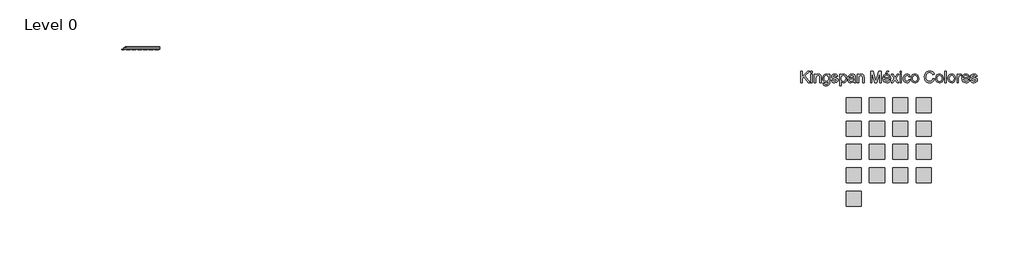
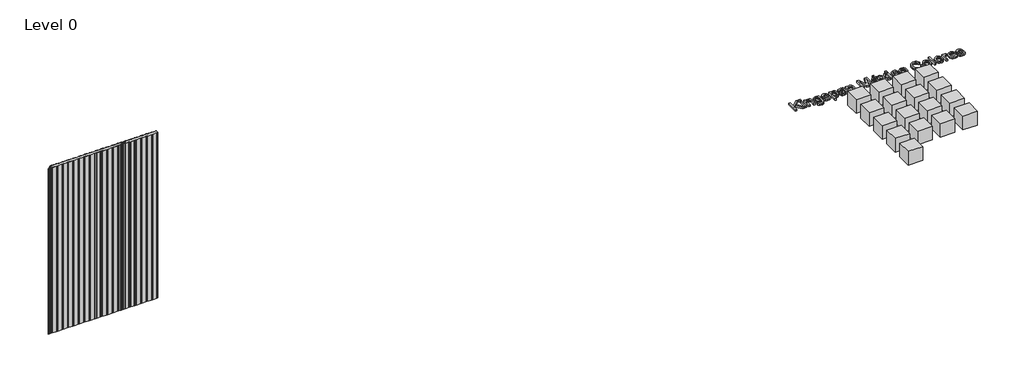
# One storey: 18 proxies, 2 plates.
"""IFC4 building model written with IfcOpenShell, lengths in millimetres."""

from ifc_helpers import new_model, si_unit, origin, place, context, project, spatial, transform, mapped, element, save
from components import generic_models_9fd19f98, ks_colour_sample_ks_colour_sample_0243efec, vt_040mm_eb3b59d4, vt_040mm_9a58fd77

model = new_model("IFC4")

# Units and contexts
model_context = context("Model", 3, world=origin())
ifc_project = project(units=[si_unit("LENGTHUNIT", "METRE", prefix="MILLI")], contexts=[model_context])

# Site, building, storey
site = spatial("IfcSite", under=ifc_project)
building = spatial("IfcBuilding", under=site)
storey = spatial("IfcBuildingStorey", under=building, Name="Level 0", Elevation=0.0)

# Proxies
placement = place(None, origin())
generic_models_shape = generic_models_9fd19f98(model_context)
element("IfcBuildingElementProxy", 1, Name="KIP-MX_ColourRange_Spanish : KIP-MX_ColourRange_Spanish", ObjectType="KIP-MX_ColourRange_Spanish : KIP-MX_ColourRange_Spanish", at=placement, inside=storey, context=model_context, shape_type="MappedRepresentation", body=[
    mapped(generic_models_shape, transform((1966.0629502, 11802.7493823, 0.0), x_axis=(1.0, 0.0, 0.0), y_axis=(0.0, 1.0, 0.0), z_axis=(0.0, 0.0, 1.0))),
])
ks_colour_sample_ks_colour_sample_shape = ks_colour_sample_ks_colour_sample_0243efec(model_context)
element("IfcBuildingElementProxy", 2, Name="KS_Colour Sample : KS_Colour Sample", ObjectType="KS_Colour Sample : KS_Colour Sample", at=placement, inside=storey, context=model_context, shape_type="MappedRepresentation", body=[
    mapped(ks_colour_sample_ks_colour_sample_shape, transform((1501.0629502, 13781.2299273, 0.0), x_axis=(1.0, 0.0, 0.0), y_axis=(0.0, 1.0, 0.0), z_axis=(0.0, 0.0, 1.0))),
])
element("IfcBuildingElementProxy", 3, Name="KS_Colour Sample : KS_Colour Sample", ObjectType="KS_Colour Sample : KS_Colour Sample", at=placement, inside=storey, context=model_context, shape_type="MappedRepresentation", body=[
    mapped(ks_colour_sample_ks_colour_sample_shape, transform((1811.0629502, 13781.2299273, 0.0), x_axis=(1.0, 0.0, 0.0), y_axis=(0.0, 1.0, 0.0), z_axis=(0.0, 0.0, 1.0))),
])
element("IfcBuildingElementProxy", 4, Name="KS_Colour Sample : KS_Colour Sample", ObjectType="KS_Colour Sample : KS_Colour Sample", at=placement, inside=storey, context=model_context, shape_type="MappedRepresentation", body=[
    mapped(ks_colour_sample_ks_colour_sample_shape, transform((2121.0629502, 13781.2299273, 0.0), x_axis=(1.0, 0.0, 0.0), y_axis=(0.0, 1.0, 0.0), z_axis=(0.0, 0.0, 1.0))),
])
element("IfcBuildingElementProxy", 5, Name="KS_Colour Sample : KS_Colour Sample", ObjectType="KS_Colour Sample : KS_Colour Sample", at=placement, inside=storey, context=model_context, shape_type="MappedRepresentation", body=[
    mapped(ks_colour_sample_ks_colour_sample_shape, transform((2431.0629502, 13781.2299273, 0.0), x_axis=(1.0, 0.0, 0.0), y_axis=(0.0, 1.0, 0.0), z_axis=(0.0, 0.0, 1.0))),
])
element("IfcBuildingElementProxy", 6, Name="KS_Colour Sample : KS_Colour Sample", ObjectType="KS_Colour Sample : KS_Colour Sample", at=placement, inside=storey, context=model_context, shape_type="MappedRepresentation", body=[
    mapped(ks_colour_sample_ks_colour_sample_shape, transform((1501.0629502, 13471.2299273, 0.0), x_axis=(1.0, 0.0, 0.0), y_axis=(0.0, 1.0, 0.0), z_axis=(0.0, 0.0, 1.0))),
])
element("IfcBuildingElementProxy", 7, Name="KS_Colour Sample : KS_Colour Sample", ObjectType="KS_Colour Sample : KS_Colour Sample", at=placement, inside=storey, context=model_context, shape_type="MappedRepresentation", body=[
    mapped(ks_colour_sample_ks_colour_sample_shape, transform((1811.0629502, 13471.2299273, 0.0), x_axis=(1.0, 0.0, 0.0), y_axis=(0.0, 1.0, 0.0), z_axis=(0.0, 0.0, 1.0))),
])
element("IfcBuildingElementProxy", 8, Name="KS_Colour Sample : KS_Colour Sample", ObjectType="KS_Colour Sample : KS_Colour Sample", at=placement, inside=storey, context=model_context, shape_type="MappedRepresentation", body=[
    mapped(ks_colour_sample_ks_colour_sample_shape, transform((2121.0629502, 13471.2299273, 0.0), x_axis=(1.0, 0.0, 0.0), y_axis=(0.0, 1.0, 0.0), z_axis=(0.0, 0.0, 1.0))),
])
element("IfcBuildingElementProxy", 9, Name="KS_Colour Sample : KS_Colour Sample", ObjectType="KS_Colour Sample : KS_Colour Sample", at=placement, inside=storey, context=model_context, shape_type="MappedRepresentation", body=[
    mapped(ks_colour_sample_ks_colour_sample_shape, transform((2431.0629502, 13471.2299273, 0.0), x_axis=(1.0, 0.0, 0.0), y_axis=(0.0, 1.0, 0.0), z_axis=(0.0, 0.0, 1.0))),
])
element("IfcBuildingElementProxy", 10, Name="KS_Colour Sample : KS_Colour Sample", ObjectType="KS_Colour Sample : KS_Colour Sample", at=placement, inside=storey, context=model_context, shape_type="MappedRepresentation", body=[
    mapped(ks_colour_sample_ks_colour_sample_shape, transform((1501.0629502, 13161.2299273, 0.0), x_axis=(1.0, 0.0, 0.0), y_axis=(0.0, 1.0, 0.0), z_axis=(0.0, 0.0, 1.0))),
])
element("IfcBuildingElementProxy", 11, Name="KS_Colour Sample : KS_Colour Sample", ObjectType="KS_Colour Sample : KS_Colour Sample", at=placement, inside=storey, context=model_context, shape_type="MappedRepresentation", body=[
    mapped(ks_colour_sample_ks_colour_sample_shape, transform((1811.0629502, 13161.2299273, 0.0), x_axis=(1.0, 0.0, 0.0), y_axis=(0.0, 1.0, 0.0), z_axis=(0.0, 0.0, 1.0))),
])
element("IfcBuildingElementProxy", 12, Name="KS_Colour Sample : KS_Colour Sample", ObjectType="KS_Colour Sample : KS_Colour Sample", at=placement, inside=storey, context=model_context, shape_type="MappedRepresentation", body=[
    mapped(ks_colour_sample_ks_colour_sample_shape, transform((2121.0629502, 13161.2299273, 0.0), x_axis=(1.0, 0.0, 0.0), y_axis=(0.0, 1.0, 0.0), z_axis=(0.0, 0.0, 1.0))),
])
element("IfcBuildingElementProxy", 13, Name="KS_Colour Sample : KS_Colour Sample", ObjectType="KS_Colour Sample : KS_Colour Sample", at=placement, inside=storey, context=model_context, shape_type="MappedRepresentation", body=[
    mapped(ks_colour_sample_ks_colour_sample_shape, transform((2431.0629502, 13161.2299273, 0.0), x_axis=(1.0, 0.0, 0.0), y_axis=(0.0, 1.0, 0.0), z_axis=(0.0, 0.0, 1.0))),
])
element("IfcBuildingElementProxy", 14, Name="KS_Colour Sample : KS_Colour Sample", ObjectType="KS_Colour Sample : KS_Colour Sample", at=placement, inside=storey, context=model_context, shape_type="MappedRepresentation", body=[
    mapped(ks_colour_sample_ks_colour_sample_shape, transform((1501.0629502, 12851.2299273, 0.0), x_axis=(1.0, 0.0, 0.0), y_axis=(0.0, 1.0, 0.0), z_axis=(0.0, 0.0, 1.0))),
])
element("IfcBuildingElementProxy", 15, Name="KS_Colour Sample : KS_Colour Sample", ObjectType="KS_Colour Sample : KS_Colour Sample", at=placement, inside=storey, context=model_context, shape_type="MappedRepresentation", body=[
    mapped(ks_colour_sample_ks_colour_sample_shape, transform((1811.0629502, 12851.2299273, 0.0), x_axis=(1.0, 0.0, 0.0), y_axis=(0.0, 1.0, 0.0), z_axis=(0.0, 0.0, 1.0))),
])
element("IfcBuildingElementProxy", 16, Name="KS_Colour Sample : KS_Colour Sample", ObjectType="KS_Colour Sample : KS_Colour Sample", at=placement, inside=storey, context=model_context, shape_type="MappedRepresentation", body=[
    mapped(ks_colour_sample_ks_colour_sample_shape, transform((2121.0629502, 12851.2299273, 0.0), x_axis=(1.0, 0.0, 0.0), y_axis=(0.0, 1.0, 0.0), z_axis=(0.0, 0.0, 1.0))),
])
element("IfcBuildingElementProxy", 17, Name="KS_Colour Sample : KS_Colour Sample", ObjectType="KS_Colour Sample : KS_Colour Sample", at=placement, inside=storey, context=model_context, shape_type="MappedRepresentation", body=[
    mapped(ks_colour_sample_ks_colour_sample_shape, transform((2431.0629502, 12851.2299273, 0.0), x_axis=(1.0, 0.0, 0.0), y_axis=(0.0, 1.0, 0.0), z_axis=(0.0, 0.0, 1.0))),
])
element("IfcBuildingElementProxy", 18, Name="KS_Colour Sample : KS_Colour Sample", ObjectType="KS_Colour Sample : KS_Colour Sample", at=placement, inside=storey, context=model_context, shape_type="MappedRepresentation", body=[
    mapped(ks_colour_sample_ks_colour_sample_shape, transform((1501.0629502, 12541.2299273, 0.0), x_axis=(1.0, 0.0, 0.0), y_axis=(0.0, 1.0, 0.0), z_axis=(0.0, 0.0, 1.0))),
])

# Plates
vt_040mm_shape = vt_040mm_eb3b59d4(model_context)
element("IfcPlate", 19, ObjectType="KIP-MEX-FW-R19-CP-Vt-SL : Vt 040mm", at=placement, inside=storey, context=model_context, shape_type="MappedRepresentation", body=[
    mapped(vt_040mm_shape, transform((-8678.7250934, 14558.8221806, 0.0), x_axis=(1.0, 0.0, 0.0), y_axis=(0.0, 1.0, 0.0), z_axis=(0.0, 0.0, 1.0))),
])
vt_040mm_2_shape = vt_040mm_9a58fd77(model_context)
element("IfcPlate", 20, ObjectType="KIP-MEX-FW-R19-CP-Vt-SL : Vt 040mm", at=placement, inside=storey, context=model_context, shape_type="MappedRepresentation", body=[
    mapped(vt_040mm_2_shape, transform((-7938.7250934, 14558.8221806, 0.0), x_axis=(1.0, 0.0, 0.0), y_axis=(0.0, 1.0, 0.0), z_axis=(0.0, 0.0, 1.0))),
])

save(model, "model.ifc")
